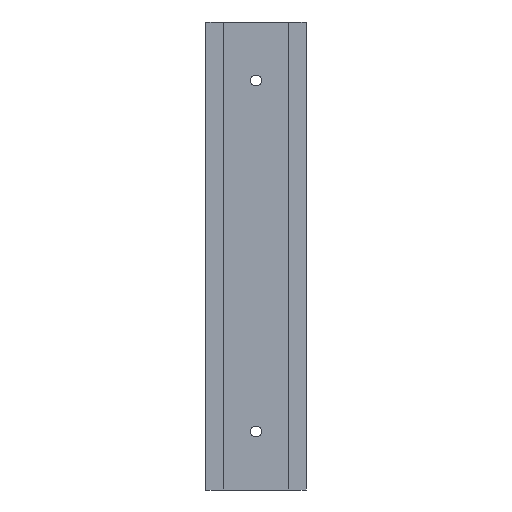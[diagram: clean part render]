
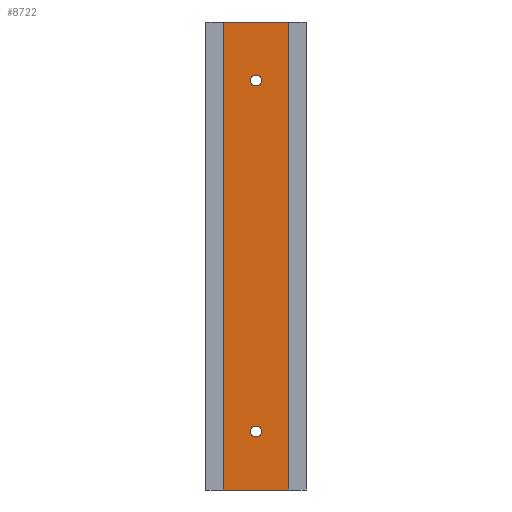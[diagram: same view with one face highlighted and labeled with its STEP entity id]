
A CAD part, front view. The second image highlights one B-rep face of the part: STEP entity #8722.
In plain terms, the highlighted planar face has unit normal (0, -1, 0).
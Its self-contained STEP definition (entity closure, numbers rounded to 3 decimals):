
#1 = FACE_OUTER_BOUND ( 'NONE', #16868, .T. ) ;
#302 = CARTESIAN_POINT ( 'NONE',  ( -21.4, 0., 22.5 ) ) ;
#309 = CARTESIAN_POINT ( 'NONE',  ( -19.3, 0., 157.5 ) ) ;
#335 = VERTEX_POINT ( 'NONE', #302 ) ;
#409 = DIRECTION ( 'NONE',  ( 0., 0., -1. ) ) ;
#694 = EDGE_CURVE ( 'NONE', #335, #13116, #17247, .T. ) ;
#807 = ORIENTED_EDGE ( 'NONE', *, *, #6671, .F. ) ;
#1360 = DIRECTION ( 'NONE',  ( 0., 0., 1. ) ) ;
#1364 = EDGE_CURVE ( 'NONE', #12414, #11923, #15090, .T. ) ;
#1576 = DIRECTION ( 'NONE',  ( 0., -1., 0. ) ) ;
#1617 = VECTOR ( 'NONE', #7820, 1000. ) ;
#1741 = AXIS2_PLACEMENT_3D ( 'NONE', #2712, #9358, #7749 ) ;
#1749 = LINE ( 'NONE', #13699, #14262 ) ;
#1774 = DIRECTION ( 'NONE',  ( 0., -1., 0. ) ) ;
#2666 = CARTESIAN_POINT ( 'NONE',  ( -31.8, 0., 180. ) ) ;
#2712 = CARTESIAN_POINT ( 'NONE',  ( -19.3, 0., 22.5 ) ) ;
#3009 = DIRECTION ( 'NONE',  ( -1., 0., 0. ) ) ;
#3053 = VERTEX_POINT ( 'NONE', #3823 ) ;
#3182 = CARTESIAN_POINT ( 'NONE',  ( -31.8, 0., 0. ) ) ;
#3188 = CARTESIAN_POINT ( 'NONE',  ( -17.2, 0., 157.5 ) ) ;
#3465 = ORIENTED_EDGE ( 'NONE', *, *, #9633, .F. ) ;
#3538 = CARTESIAN_POINT ( 'NONE',  ( -6.8, 0., 0. ) ) ;
#3663 = CARTESIAN_POINT ( 'NONE',  ( -17.2, 0., 22.5 ) ) ;
#3823 = CARTESIAN_POINT ( 'NONE',  ( -21.4, 0., 157.5 ) ) ;
#3983 = AXIS2_PLACEMENT_3D ( 'NONE', #8392, #1774, #14928 ) ;
#4009 = DIRECTION ( 'NONE',  ( 1., 0., 0. ) ) ;
#5289 = ORIENTED_EDGE ( 'NONE', *, *, #694, .F. ) ;
#5563 = ORIENTED_EDGE ( 'NONE', *, *, #1364, .F. ) ;
#5581 = EDGE_CURVE ( 'NONE', #11923, #9097, #1749, .T. ) ;
#5634 = FACE_BOUND ( 'NONE', #13538, .T. ) ;
#5785 = DIRECTION ( 'NONE',  ( -1., 0., 0. ) ) ;
#6005 = EDGE_CURVE ( 'NONE', #13116, #335, #11918, .T. ) ;
#6216 = LINE ( 'NONE', #7524, #1617 ) ;
#6654 = VECTOR ( 'NONE', #1360, 1000. ) ;
#6658 = VERTEX_POINT ( 'NONE', #3188 ) ;
#6671 = EDGE_CURVE ( 'NONE', #3053, #6658, #8140, .T. ) ;
#6850 = DIRECTION ( 'NONE',  ( -1., 0., 0. ) ) ;
#7127 = PLANE ( 'NONE',  #3983 ) ;
#7187 = ORIENTED_EDGE ( 'NONE', *, *, #15512, .F. ) ;
#7524 = CARTESIAN_POINT ( 'NONE',  ( -6.8, 0., 0. ) ) ;
#7586 = AXIS2_PLACEMENT_3D ( 'NONE', #8291, #12215, #6850 ) ;
#7749 = DIRECTION ( 'NONE',  ( -1., 0., 0. ) ) ;
#7820 = DIRECTION ( 'NONE',  ( -1., 0., 0. ) ) ;
#7915 = CARTESIAN_POINT ( 'NONE',  ( -6.8, 0., 180. ) ) ;
#8140 = CIRCLE ( 'NONE', #15179, 2.1 ) ;
#8291 = CARTESIAN_POINT ( 'NONE',  ( -19.3, 0., 22.5 ) ) ;
#8392 = CARTESIAN_POINT ( 'NONE',  ( -19.3, 0., 90. ) ) ;
#8722 = ADVANCED_FACE ( 'NONE', ( #15204, #5634, #1 ), #7127, .T. ) ;
#9097 = VERTEX_POINT ( 'NONE', #3538 ) ;
#9231 = EDGE_CURVE ( 'NONE', #9371, #12414, #12471, .T. ) ;
#9298 = CARTESIAN_POINT ( 'NONE',  ( -31.8, 0., 180. ) ) ;
#9358 = DIRECTION ( 'NONE',  ( 0., -1., 0. ) ) ;
#9371 = VERTEX_POINT ( 'NONE', #3182 ) ;
#9633 = EDGE_CURVE ( 'NONE', #9097, #9371, #6216, .T. ) ;
#9750 = AXIS2_PLACEMENT_3D ( 'NONE', #16241, #1576, #3009 ) ;
#10090 = CARTESIAN_POINT ( 'NONE',  ( -6.8, 0., 180. ) ) ;
#10591 = ORIENTED_EDGE ( 'NONE', *, *, #6005, .F. ) ;
#10961 = EDGE_LOOP ( 'NONE', ( #807, #7187 ) ) ;
#11572 = VECTOR ( 'NONE', #4009, 1000. ) ;
#11756 = ORIENTED_EDGE ( 'NONE', *, *, #9231, .F. ) ;
#11918 = CIRCLE ( 'NONE', #7586, 2.1 ) ;
#11923 = VERTEX_POINT ( 'NONE', #10090 ) ;
#12215 = DIRECTION ( 'NONE',  ( 0., -1., 0. ) ) ;
#12414 = VERTEX_POINT ( 'NONE', #9298 ) ;
#12471 = LINE ( 'NONE', #2666, #6654 ) ;
#13116 = VERTEX_POINT ( 'NONE', #3663 ) ;
#13538 = EDGE_LOOP ( 'NONE', ( #5289, #10591 ) ) ;
#13699 = CARTESIAN_POINT ( 'NONE',  ( -6.8, 0., 180. ) ) ;
#13767 = DIRECTION ( 'NONE',  ( 0., -1., 0. ) ) ;
#14262 = VECTOR ( 'NONE', #409, 1000. ) ;
#14928 = DIRECTION ( 'NONE',  ( -1., 0., 0. ) ) ;
#15090 = LINE ( 'NONE', #7915, #11572 ) ;
#15179 = AXIS2_PLACEMENT_3D ( 'NONE', #309, #13767, #5785 ) ;
#15204 = FACE_BOUND ( 'NONE', #10961, .T. ) ;
#15512 = EDGE_CURVE ( 'NONE', #6658, #3053, #17215, .T. ) ;
#16241 = CARTESIAN_POINT ( 'NONE',  ( -19.3, 0., 157.5 ) ) ;
#16868 = EDGE_LOOP ( 'NONE', ( #3465, #17145, #5563, #11756 ) ) ;
#17145 = ORIENTED_EDGE ( 'NONE', *, *, #5581, .F. ) ;
#17215 = CIRCLE ( 'NONE', #9750, 2.1 ) ;
#17247 = CIRCLE ( 'NONE', #1741, 2.1 ) ;
